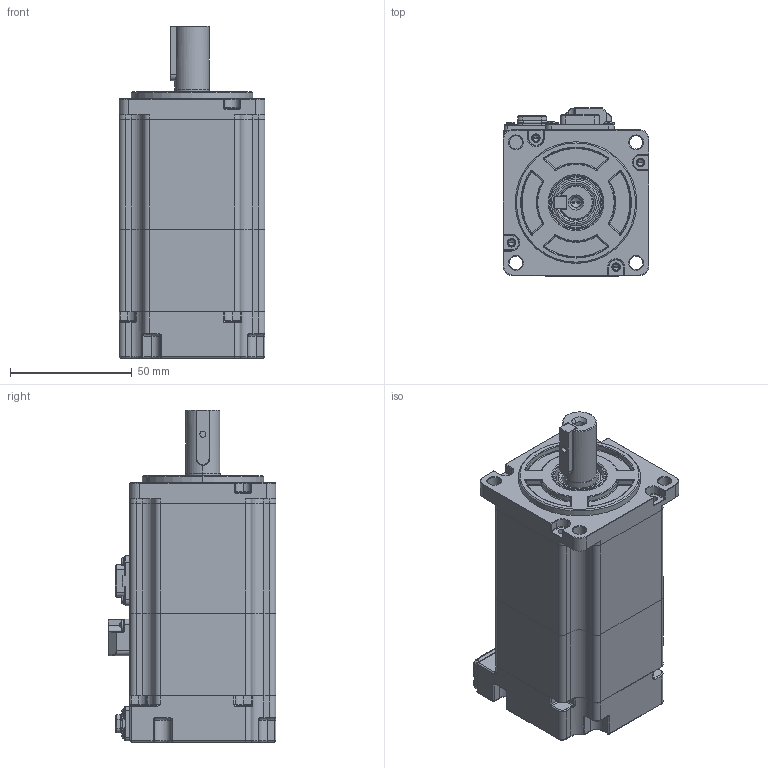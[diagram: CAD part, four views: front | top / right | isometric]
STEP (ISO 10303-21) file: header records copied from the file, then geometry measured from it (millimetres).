
FILE_DESCRIPTION (( 'STEP AP214' ), '1' );
FILE_NAME ('V7E-L06A-R2030-D2.STEP', '2021-08-09T03:08:13', ( '' ), ( '' ), 'SwSTEP 2.0', 'SolidWorks 2014', '' );
FILE_SCHEMA (( 'AUTOMOTIVE_DESIGN' ));
Length unit declared in the file: millimetre
Products named in the file (12): V7E-L06A-R2030-D2; ヶ傷裔E06B102QA1; 儂褲E06B101AA1-45; 40#价陬堤盄揤盄裔; 坋趼苤攫芛ISO 7045 - M2 x 5201611; 蚐猾 D00B999YF2-TC 15-22-5; 普通型 平键   C 5x5x22.5 带M3起键螺钉孔; 晤鎢ん欶E06B106BA1; 綴傷裔E06B102HB1-S; 粣芛; 60-80蚳蚚雄薯脣釱-sc-mc6p-ac-goubanchazuo; SC40陔晤鎢ん瑤脣釱sc-mc7p-a6-zhichuxianchazuo
Assembly tree (12 placements, depth 2):
  V7E-L06A-R2030-D2
    儂褲E06B101AA1-45
    晤鎢ん欶E06B106BA1
    ヶ傷裔E06B102QA1
    蚐猾 D00B999YF2-TC 15-22-5
    粣芛
    SC40陔晤鎢ん瑤脣釱sc-mc7p-a6-zhichuxianchazuo
    60-80蚳蚚雄薯脣釱-sc-mc6p-ac-goubanchazuo
    普通型 平键   C 5x5x22.5 带M3起键螺钉孔
    綴傷裔E06B102HB1-S
    40#价陬堤盄揤盄裔
    坋趼苤攫芛ISO 7045 - M2 x 5201611  x2
Bounding box: 60 x 69 x 136.5 mm (x, y, z)
Volume: 138615.5 mm3; surface area: 82835.1 mm2
Topology: 21 solids, 21 shells, 3692 faces, 9307 edges, 5720 vertices
Faces by surface type: plane 1724, cylinder 1263, bspline 300, cone 194, torus 165, sphere 46
Entity records: 134074 total; most frequent: CARTESIAN_POINT 46382, ORIENTED_EDGE 18220, DIRECTION 17495, EDGE_CURVE 9110, AXIS2_PLACEMENT_3D 5973, VERTEX_POINT 5654, LINE 5549, VECTOR 5549
